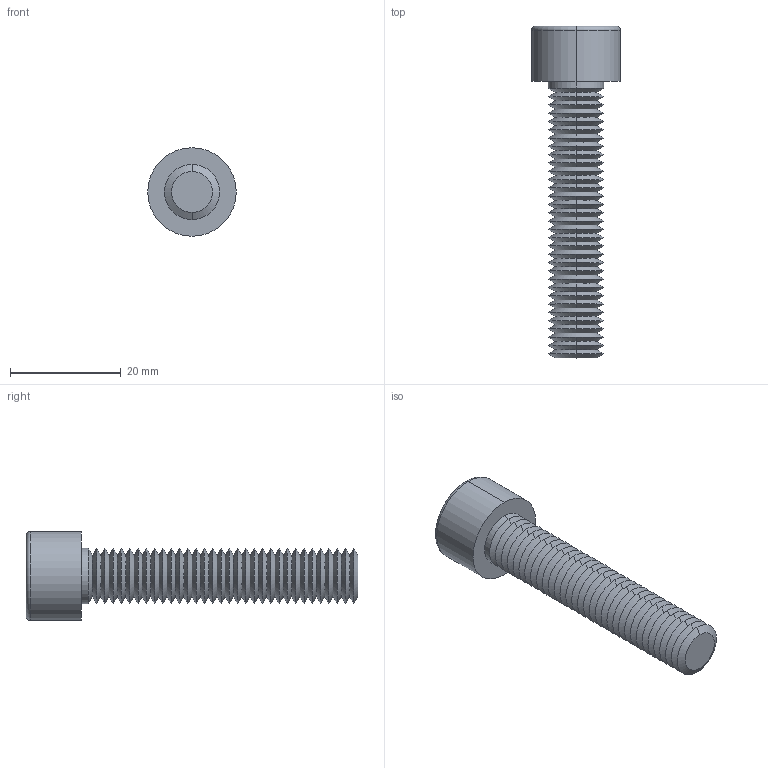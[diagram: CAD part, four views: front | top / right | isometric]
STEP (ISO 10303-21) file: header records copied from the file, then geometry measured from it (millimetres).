
FILE_DESCRIPTION (( 'STEP AP203' ), '1' );
FILE_NAME ('91N.100.0500.step', '2025-05-20T08:55:32', ( '' ), ( '' ), 'SwSTEP 2.0', 'SolidWorks 2019', '' );
FILE_SCHEMA (( 'CONFIG_CONTROL_DESIGN' ));
Length unit declared in the file: millimetre
Products named in the file (1): 91N.100.0500
Bounding box: 16 x 60 x 16 mm (x, y, z)
Volume: 4540.2 mm3; surface area: 3784.1 mm2
Topology: 1 solids, 1 shells, 160 faces, 319 edges, 161 vertices
Faces by surface type: cone 139, plane 15, cylinder 4, torus 2
Entity records: 4082 total; most frequent: DIRECTION 787, CARTESIAN_POINT 670, ORIENTED_EDGE 634, EDGE_CURVE 317, AXIS2_PLACEMENT_3D 316, EDGE_LOOP 162, VERTEX_POINT 161, ADVANCED_FACE 160
